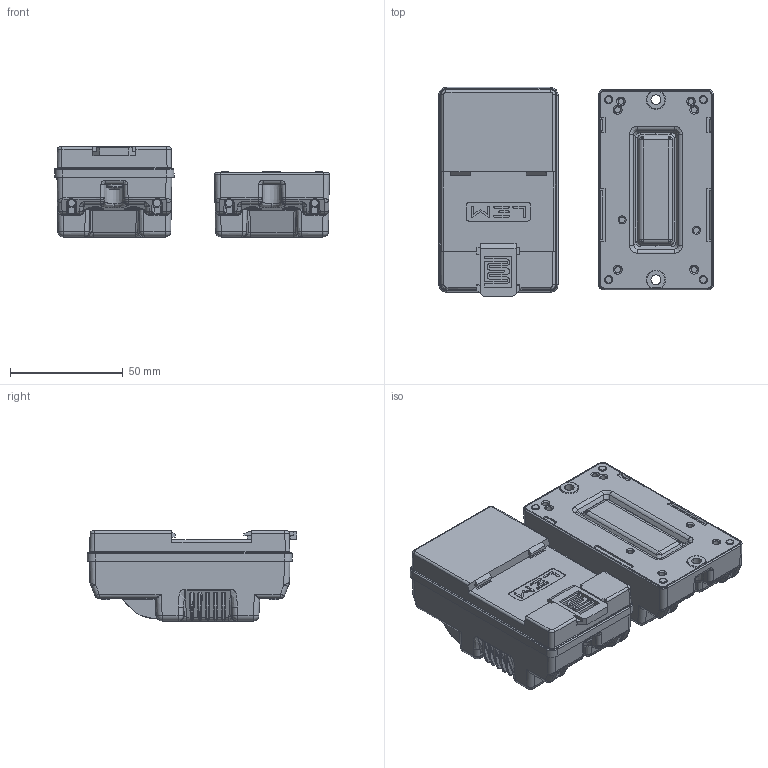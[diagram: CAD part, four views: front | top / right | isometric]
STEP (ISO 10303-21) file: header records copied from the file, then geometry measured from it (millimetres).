
FILE_DESCRIPTION(('Creo Elements/Direct Modeling STEP Export'),'2;1');
FILE_NAME('HFJFOL.stp','2020-07-22T14:55:08',(''),(''),'Creo Elements/Direct Modeling STEP processor for AP214 (Solid Model)','Creo Elements/Direct Modeling 20.1 10-Mar-2018 (C) Parametric Technology GmbH','');
FILE_SCHEMA(('AUTOMOTIVE_DESIGN { 1 0 10303 214 1 1 1 1 }'));
Products named in the file (4): DVC_BLACKBOX_A_DIN_Rail; DVC_BLACKBOX_A
Assembly tree (2 placements, depth 2):
  DVC_BLACKBOX_A_DIN_Rail
    DVC_BLACKBOX_A_DIN_Rail
  DVC_BLACKBOX_A
    DVC_BLACKBOX_A
Bounding box: 122.05 x 93.08 x 40 mm (x, y, z)
Volume: 242560 mm3; surface area: 44476.4 mm2
Topology: 2 solids, 13 shells, 3095 faces, 7571 edges, 4513 vertices
Faces by surface type: plane 1078, cylinder 983, bspline 836, cone 112, sphere 48, torus 30, extrusion 8
Entity records: 167763 total; most frequent: CARTESIAN_POINT 105943, ORIENTED_EDGE 15014, DIRECTION 9138, EDGE_CURVE 7507, VERTEX_POINT 4513, VECTOR 3586, LINE 3578, EDGE_LOOP 3188
